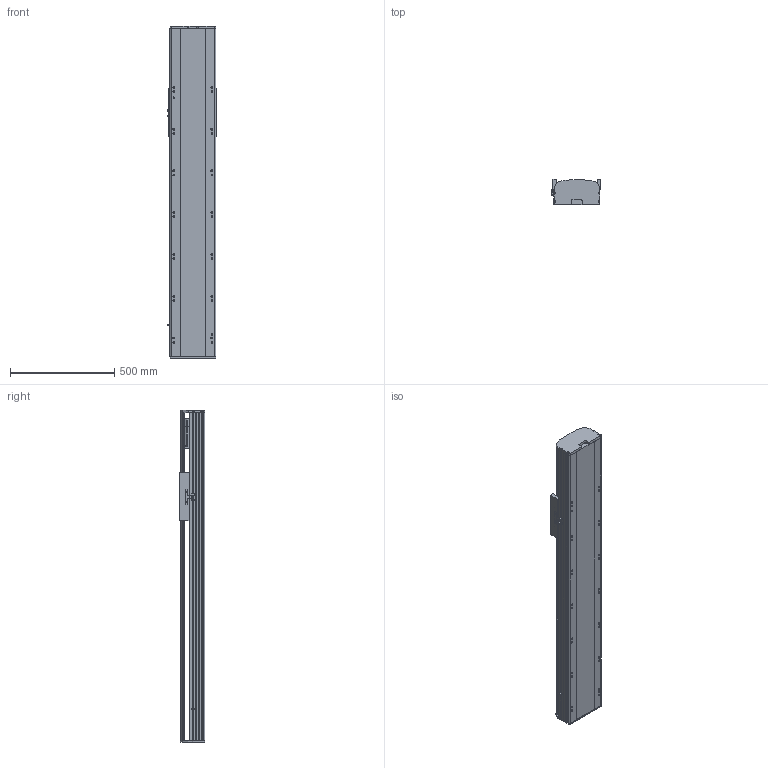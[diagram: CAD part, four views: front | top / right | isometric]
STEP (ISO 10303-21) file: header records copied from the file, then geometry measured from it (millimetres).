
FILE_DESCRIPTION (( 'STEP AP214' ), '1' );
FILE_NAME ('RTH22-XX-1000-B-M75-C4.STEP', '2025-10-24T10:32:24', ( 'Microsoft' ), ( 'Microsoft' ), 'SwSTEP 2.0', 'SolidWorks 2018', '' );
FILE_SCHEMA (( 'AUTOMOTIVE_DESIGN' ));
Length unit declared in the file: millimetre
Products named in the file (9): N_RTH22-GY-001耜裔^RTH22-XX-XX-B-M75-C4; N_750W萇儂^RTH22-XX-XX-B-M75-C4; RTH22-XX-1000-B-M75-C4; N_RTH22-B-008萇儂啣^RTH22-XX-XX-B-M75-C4; N_RTH22-E-004-SFS25賑釱^RTH22-XX-XX-B-M75-C4; N_OMRON EE-SX672 传感器^RTH22-XX-XX-B-M75-C4; N_RTH22-GY-013外置感应片^RTH22-XX-XX-B-M75-C4; N_RTH22-B-011菁釱^RTH22-XX-XX-B-M75-C4; N_RTH22-B-007奻裔^RTH22-XX-XX-B-M75-C4
Assembly tree (10 placements, depth 2):
  RTH22-XX-1000-B-M75-C4
    N_RTH22-B-011菁釱^RTH22-XX-XX-B-M75-C4
    N_RTH22-GY-001耜裔^RTH22-XX-XX-B-M75-C4
    N_750W萇儂^RTH22-XX-XX-B-M75-C4
    N_RTH22-B-008萇儂啣^RTH22-XX-XX-B-M75-C4
    N_RTH22-B-007奻裔^RTH22-XX-XX-B-M75-C4
    N_OMRON EE-SX672 传感器^RTH22-XX-XX-B-M75-C4  x3
    N_RTH22-GY-013外置感应片^RTH22-XX-XX-B-M75-C4
    N_RTH22-E-004-SFS25賑釱^RTH22-XX-XX-B-M75-C4
Bounding box: 238.5 x 122 x 1590 mm (x, y, z)
Volume: 21486413.9 mm3; surface area: 2212363.3 mm2
Topology: 10 solids, 10 shells, 1533 faces, 4200 edges, 2713 vertices
Faces by surface type: plane 754, cylinder 442, bspline 279, cone 58
Entity records: 38091 total; most frequent: CARTESIAN_POINT 11845, ORIENTED_EDGE 5376, DIRECTION 5046, EDGE_CURVE 2688, VERTEX_POINT 1749, AXIS2_PLACEMENT_3D 1698, VECTOR 1650, LINE 1650
